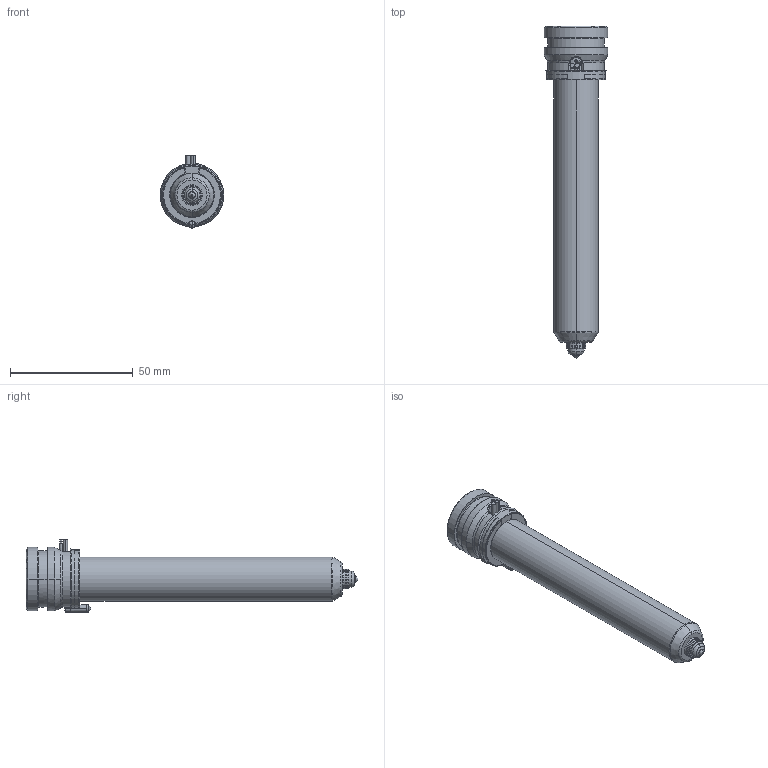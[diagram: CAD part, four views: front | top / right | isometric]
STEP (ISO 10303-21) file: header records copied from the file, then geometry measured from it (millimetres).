
FILE_DESCRIPTION((''),'2;1');
FILE_NAME('TH18117_5-A-1B15-PK-JG','2023-12-14T',('umhib'),('Thermoplay S.p.A.'),'PRO/ENGINEER BY PARAMETRIC TECHNOLOGY CORPORATION, 2017170','PRO/ENGINEER BY PARAMETRIC TECHNOLOGY CORPORATION, 2017170','');
FILE_SCHEMA(('CONFIG_CONTROL_DESIGN'));
Length unit declared in the file: millimetre
Products named in the file (1): TH18117_5-A-1B15-PK-JG
Bounding box: 26 x 135.5 x 29.5 mm (x, y, z)
Volume: 27722.5 mm3; surface area: 20190.4 mm2
Topology: 1 solids, 2 shells, 398 faces, 1036 edges, 643 vertices
Faces by surface type: cylinder 151, plane 85, cone 68, torus 56, bspline 24, sphere 12, extrusion 2
Entity records: 18088 total; most frequent: CARTESIAN_POINT 6123, ORIENTED_EDGE 2048, DIRECTION 2031, EDGE_CURVE 1026, AXIS2_PLACEMENT_3D 815, VERTEX_POINT 643, CIRCLE 442, EDGE_LOOP 418
